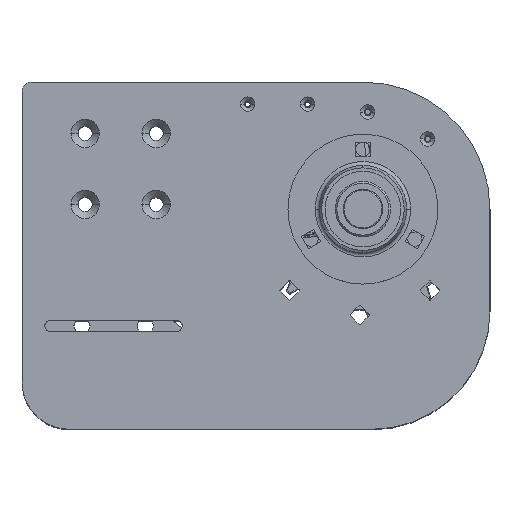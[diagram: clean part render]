
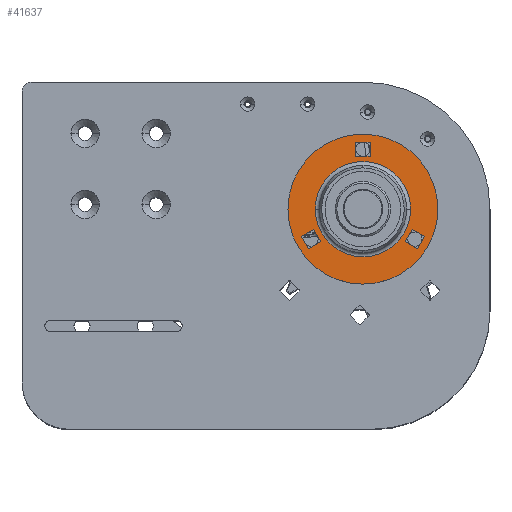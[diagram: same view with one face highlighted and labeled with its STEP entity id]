
A CAD part, top view. The second image highlights one B-rep face of the part: STEP entity #41637.
In plain terms, the highlighted planar face has unit normal (0, 0, 1) as drawn and (1, 0, 0) by its records, which use the part's own axes.
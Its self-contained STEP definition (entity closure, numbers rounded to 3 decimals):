
#244 = CARTESIAN_POINT ( 'NONE',  ( 2., 12.853, 31.262 ) ) ;
#405 = CARTESIAN_POINT ( 'NONE',  ( 2., 25.147, -34.556 ) ) ;
#1541 = AXIS2_PLACEMENT_3D ( 'NONE', #36950, #17511, #56813 ) ;
#1670 = VERTEX_POINT ( 'NONE', #45948 ) ;
#2565 = VERTEX_POINT ( 'NONE', #36096 ) ;
#3181 = DIRECTION ( 'NONE',  ( 0., 0., 1. ) ) ;
#3607 = CARTESIAN_POINT ( 'NONE',  ( 2., -42.5, -4.5 ) ) ;
#4739 = ORIENTED_EDGE ( 'NONE', *, *, #58089, .F. ) ;
#4818 = ORIENTED_EDGE ( 'NONE', *, *, #10528, .F. ) ;
#4990 = ORIENTED_EDGE ( 'NONE', *, *, #46398, .F. ) ;
#5077 = ORIENTED_EDGE ( 'NONE', *, *, #13418, .F. ) ;
#5195 = AXIS2_PLACEMENT_3D ( 'NONE', #63371, #24304, #63155 ) ;
#5621 = VECTOR ( 'NONE', #49009, 1000. ) ;
#6089 = LINE ( 'NONE', #40855, #64022 ) ;
#6467 = EDGE_CURVE ( 'NONE', #52156, #56520, #31210, .T. ) ;
#8308 = CARTESIAN_POINT ( 'NONE',  ( 2., 0., 0. ) ) ;
#8664 = CARTESIAN_POINT ( 'NONE',  ( 2., -33.5, 4.5 ) ) ;
#8856 = CARTESIAN_POINT ( 'NONE',  ( 2., -42.5, -4.5 ) ) ;
#9338 = AXIS2_PLACEMENT_3D ( 'NONE', #8308, #57167, #3181 ) ;
#10528 = EDGE_CURVE ( 'NONE', #60256, #55506, #54742, .T. ) ;
#10759 = AXIS2_PLACEMENT_3D ( 'NONE', #31778, #21389, #17070 ) ;
#10807 = LINE ( 'NONE', #53905, #45602 ) ;
#10909 = EDGE_CURVE ( 'NONE', #26889, #34565, #22264, .T. ) ;
#10993 = ORIENTED_EDGE ( 'NONE', *, *, #53181, .F. ) ;
#11196 = CARTESIAN_POINT ( 'NONE',  ( 2., -33.5, -4.5 ) ) ;
#11490 = FACE_BOUND ( 'NONE', #60298, .T. ) ;
#11794 = VERTEX_POINT ( 'NONE', #55702 ) ;
#11875 = ORIENTED_EDGE ( 'NONE', *, *, #41511, .F. ) ;
#11983 = EDGE_CURVE ( 'NONE', #20876, #2565, #61059, .T. ) ;
#12057 = EDGE_CURVE ( 'NONE', #49620, #23640, #18539, .T. ) ;
#13391 = EDGE_LOOP ( 'NONE', ( #31679, #21285, #5077, #10993 ) ) ;
#13418 = EDGE_CURVE ( 'NONE', #1670, #52156, #40749, .T. ) ;
#13750 = VECTOR ( 'NONE', #30315, 1000. ) ;
#13940 = DIRECTION ( 'NONE',  ( 0., 0., -1. ) ) ;
#14330 = CIRCLE ( 'NONE', #1541, 30.166 ) ;
#14486 = CARTESIAN_POINT ( 'NONE',  ( 2., -42.5, -4.5 ) ) ;
#17070 = DIRECTION ( 'NONE',  ( 0., 0., -1. ) ) ;
#17083 = CARTESIAN_POINT ( 'NONE',  ( 2., 0., -30.166 ) ) ;
#17511 = DIRECTION ( 'NONE',  ( -1., 0., 0. ) ) ;
#18399 = LINE ( 'NONE', #57045, #36943 ) ;
#18523 = DIRECTION ( 'NONE',  ( -1., 0., 0. ) ) ;
#18539 = CIRCLE ( 'NONE', #5195, 47.5 ) ;
#18773 = CARTESIAN_POINT ( 'NONE',  ( 2., 25.147, -34.556 ) ) ;
#19387 = CARTESIAN_POINT ( 'NONE',  ( 2., 17.353, -39.056 ) ) ;
#19513 = CARTESIAN_POINT ( 'NONE',  ( 2., 0., -47.5 ) ) ;
#20876 = VERTEX_POINT ( 'NONE', #17083 ) ;
#21285 = ORIENTED_EDGE ( 'NONE', *, *, #6467, .F. ) ;
#21389 = DIRECTION ( 'NONE',  ( -1., 0., 0. ) ) ;
#22228 = CARTESIAN_POINT ( 'NONE',  ( 2., 17.353, 39.056 ) ) ;
#22264 = LINE ( 'NONE', #18773, #24558 ) ;
#23640 = VERTEX_POINT ( 'NONE', #53843 ) ;
#24141 = EDGE_CURVE ( 'NONE', #34565, #11794, #52670, .T. ) ;
#24304 = DIRECTION ( 'NONE',  ( -1., 0., 0. ) ) ;
#24558 = VECTOR ( 'NONE', #33454, 1000. ) ;
#25418 = CARTESIAN_POINT ( 'NONE',  ( 2., 17.353, 39.056 ) ) ;
#26889 = VERTEX_POINT ( 'NONE', #61006 ) ;
#27459 = DIRECTION ( 'NONE',  ( 0., 0., 1. ) ) ;
#27542 = CARTESIAN_POINT ( 'NONE',  ( 2., 20.647, 26.762 ) ) ;
#28041 = VERTEX_POINT ( 'NONE', #31339 ) ;
#28138 = VERTEX_POINT ( 'NONE', #38182 ) ;
#30119 = FACE_OUTER_BOUND ( 'NONE', #40386, .T. ) ;
#30315 = DIRECTION ( 'NONE',  ( 0., 0.866, -0.5 ) ) ;
#31134 = CARTESIAN_POINT ( 'NONE',  ( 2., 17.353, 39.056 ) ) ;
#31200 = ORIENTED_EDGE ( 'NONE', *, *, #34375, .F. ) ;
#31210 = LINE ( 'NONE', #14486, #5621 ) ;
#31339 = CARTESIAN_POINT ( 'NONE',  ( 2., 12.853, -31.262 ) ) ;
#31679 = ORIENTED_EDGE ( 'NONE', *, *, #56235, .F. ) ;
#31778 = CARTESIAN_POINT ( 'NONE',  ( 2., 47.5, 0. ) ) ;
#33454 = DIRECTION ( 'NONE',  ( 0., 0.866, 0.5 ) ) ;
#33920 = ORIENTED_EDGE ( 'NONE', *, *, #12057, .F. ) ;
#34375 = EDGE_CURVE ( 'NONE', #59970, #60256, #39812, .T. ) ;
#34565 = VERTEX_POINT ( 'NONE', #39690 ) ;
#34697 = ORIENTED_EDGE ( 'NONE', *, *, #43342, .F. ) ;
#35301 = VECTOR ( 'NONE', #64071, 1000. ) ;
#36096 = CARTESIAN_POINT ( 'NONE',  ( 2., 0., 30.166 ) ) ;
#36366 = AXIS2_PLACEMENT_3D ( 'NONE', #43124, #18523, #39007 ) ;
#36527 = LINE ( 'NONE', #22228, #44234 ) ;
#36625 = ORIENTED_EDGE ( 'NONE', *, *, #24141, .F. ) ;
#36943 = VECTOR ( 'NONE', #27459, 1000. ) ;
#36950 = CARTESIAN_POINT ( 'NONE',  ( 2., 0., 0. ) ) ;
#37047 = FACE_BOUND ( 'NONE', #13391, .T. ) ;
#37360 = DIRECTION ( 'NONE',  ( 0., -0.866, 0.5 ) ) ;
#38182 = CARTESIAN_POINT ( 'NONE',  ( 2., 25.147, 34.556 ) ) ;
#39007 = DIRECTION ( 'NONE',  ( 0., 0., 1. ) ) ;
#39444 = ORIENTED_EDGE ( 'NONE', *, *, #10909, .F. ) ;
#39690 = CARTESIAN_POINT ( 'NONE',  ( 2., 25.147, -34.556 ) ) ;
#39812 = LINE ( 'NONE', #31134, #52950 ) ;
#40386 = EDGE_LOOP ( 'NONE', ( #4739, #33920 ) ) ;
#40617 = EDGE_LOOP ( 'NONE', ( #47478, #53833 ) ) ;
#40629 = DIRECTION ( 'NONE',  ( 0., -0.866, -0.5 ) ) ;
#40749 = LINE ( 'NONE', #3607, #53039 ) ;
#40855 = CARTESIAN_POINT ( 'NONE',  ( 2., 20.647, -26.762 ) ) ;
#41312 = LINE ( 'NONE', #54377, #52121 ) ;
#41511 = EDGE_CURVE ( 'NONE', #11794, #28041, #6089, .T. ) ;
#41637 = ADVANCED_FACE ( 'NONE', ( #62482, #11490, #47085, #37047, #30119 ), #41697, .F. ) ;
#41697 = PLANE ( 'NONE',  #10759 ) ;
#43124 = CARTESIAN_POINT ( 'NONE',  ( 2., 0., 0. ) ) ;
#43342 = EDGE_CURVE ( 'NONE', #28041, #26889, #60759, .T. ) ;
#44234 = VECTOR ( 'NONE', #37360, 1000. ) ;
#44822 = DIRECTION ( 'NONE',  ( 0., -1., 0. ) ) ;
#45262 = EDGE_CURVE ( 'NONE', #55506, #28138, #41312, .T. ) ;
#45602 = VECTOR ( 'NONE', #44822, 1000. ) ;
#45948 = CARTESIAN_POINT ( 'NONE',  ( 2., -42.5, 4.5 ) ) ;
#46398 = EDGE_CURVE ( 'NONE', #28138, #59970, #36527, .T. ) ;
#47085 = FACE_BOUND ( 'NONE', #49297, .T. ) ;
#47167 = VERTEX_POINT ( 'NONE', #8664 ) ;
#47478 = ORIENTED_EDGE ( 'NONE', *, *, #64122, .T. ) ;
#47539 = CIRCLE ( 'NONE', #36366, 47.5 ) ;
#49009 = DIRECTION ( 'NONE',  ( 0., 1., 0. ) ) ;
#49297 = EDGE_LOOP ( 'NONE', ( #11875, #36625, #39444, #34697 ) ) ;
#49620 = VERTEX_POINT ( 'NONE', #19513 ) ;
#52121 = VECTOR ( 'NONE', #58675, 1000. ) ;
#52156 = VERTEX_POINT ( 'NONE', #8856 ) ;
#52670 = LINE ( 'NONE', #405, #53464 ) ;
#52950 = VECTOR ( 'NONE', #55737, 1000. ) ;
#53039 = VECTOR ( 'NONE', #13940, 1000. ) ;
#53181 = EDGE_CURVE ( 'NONE', #47167, #1670, #10807, .T. ) ;
#53464 = VECTOR ( 'NONE', #54645, 1000. ) ;
#53833 = ORIENTED_EDGE ( 'NONE', *, *, #11983, .T. ) ;
#53843 = CARTESIAN_POINT ( 'NONE',  ( 2., 0., 47.5 ) ) ;
#53905 = CARTESIAN_POINT ( 'NONE',  ( 2., -42.5, 4.5 ) ) ;
#54377 = CARTESIAN_POINT ( 'NONE',  ( 2., 25.147, 34.556 ) ) ;
#54645 = DIRECTION ( 'NONE',  ( 0., -0.5, 0.866 ) ) ;
#54742 = LINE ( 'NONE', #244, #13750 ) ;
#55506 = VERTEX_POINT ( 'NONE', #27542 ) ;
#55702 = CARTESIAN_POINT ( 'NONE',  ( 2., 20.647, -26.762 ) ) ;
#55737 = DIRECTION ( 'NONE',  ( 0., -0.5, -0.866 ) ) ;
#56235 = EDGE_CURVE ( 'NONE', #56520, #47167, #18399, .T. ) ;
#56520 = VERTEX_POINT ( 'NONE', #11196 ) ;
#56813 = DIRECTION ( 'NONE',  ( 0., 0., 1. ) ) ;
#57045 = CARTESIAN_POINT ( 'NONE',  ( 2., -33.5, -4.5 ) ) ;
#57167 = DIRECTION ( 'NONE',  ( -1., 0., 0. ) ) ;
#58022 = ORIENTED_EDGE ( 'NONE', *, *, #45262, .F. ) ;
#58089 = EDGE_CURVE ( 'NONE', #23640, #49620, #47539, .T. ) ;
#58675 = DIRECTION ( 'NONE',  ( 0., 0.5, 0.866 ) ) ;
#59465 = CARTESIAN_POINT ( 'NONE',  ( 2., 12.853, 31.262 ) ) ;
#59970 = VERTEX_POINT ( 'NONE', #25418 ) ;
#60256 = VERTEX_POINT ( 'NONE', #59465 ) ;
#60298 = EDGE_LOOP ( 'NONE', ( #4818, #31200, #4990, #58022 ) ) ;
#60759 = LINE ( 'NONE', #19387, #35301 ) ;
#61006 = CARTESIAN_POINT ( 'NONE',  ( 2., 17.353, -39.056 ) ) ;
#61059 = CIRCLE ( 'NONE', #9338, 30.166 ) ;
#62482 = FACE_BOUND ( 'NONE', #40617, .T. ) ;
#63155 = DIRECTION ( 'NONE',  ( 0., 0., 1. ) ) ;
#63371 = CARTESIAN_POINT ( 'NONE',  ( 2., 0., 0. ) ) ;
#64022 = VECTOR ( 'NONE', #40629, 1000. ) ;
#64071 = DIRECTION ( 'NONE',  ( 0., 0.5, -0.866 ) ) ;
#64122 = EDGE_CURVE ( 'NONE', #2565, #20876, #14330, .T. ) ;
